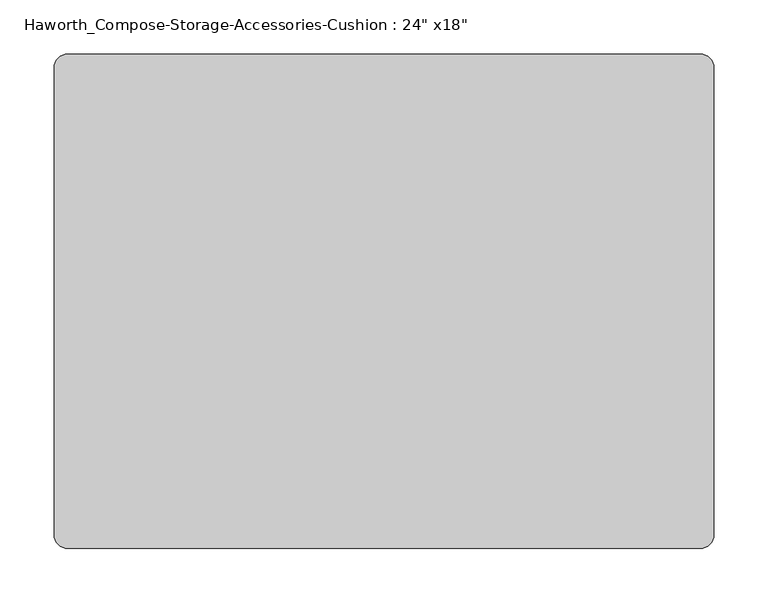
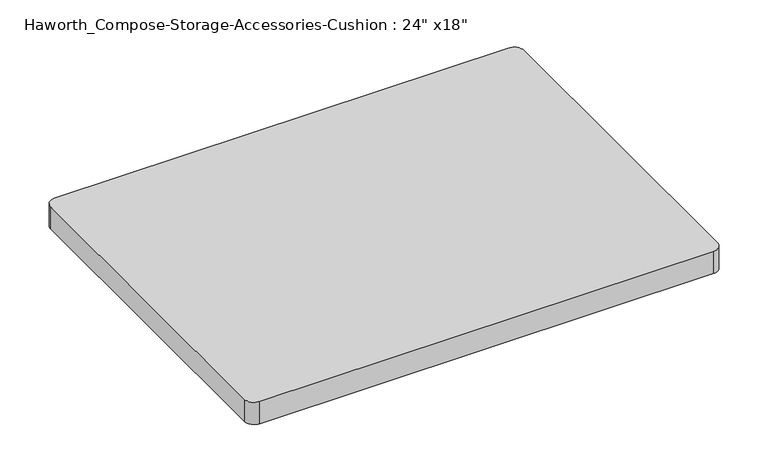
"""IFC4 building model written with IfcOpenShell, lengths in millimetres: furniture geometry."""

from ifc_helpers import new_model, si_unit, point, frame, frame_2d, origin, place, context, project, spatial, polyline, circle_curve, trimmed, segment, composite_curve, outline, extrude, source, transform, mapped, element, save


def furniture_40993e6f(model_context):
    return source(origin(), model_context, "Body", "SweptSolid", [
        extrude(outline(composite_curve([segment(polyline([(292.1, -228.6), (-292.1, -228.6)]), True, "CONTINUOUS"), segment(trimmed(circle_curve(frame_2d((-292.1, -215.9)), 12.7), [point((-292.1, -228.6))], [point((-304.8, -215.9))], False, "CARTESIAN"), True, "CONTINUOUS"), segment(polyline([(-304.8, -215.9), (-304.8, 215.9)]), True, "CONTINUOUS"), segment(trimmed(circle_curve(frame_2d((-292.1, 215.9)), 12.7), [point((-304.8, 215.9))], [point((-292.1, 228.6))], False, "CARTESIAN"), True, "CONTINUOUS"), segment(polyline([(-292.1, 228.6), (292.1, 228.6)]), True, "CONTINUOUS"), segment(trimmed(circle_curve(frame_2d((292.1, 215.9)), 12.7), [point((292.1, 228.6))], [point((304.8, 215.9))], False, "CARTESIAN"), True, "CONTINUOUS"), segment(polyline([(304.8, 215.9), (304.8, -215.9)]), True, "CONTINUOUS"), segment(trimmed(circle_curve(frame_2d((292.1, -215.9)), 12.7), [point((304.8, -215.9))], [point((292.1, -228.6))], False, "CARTESIAN"), True, "CONTINUOUS")], self_intersect=False)), frame((0.0, 0.0, 584.2), z_axis=(0.0, 0.0, 1.0), x_axis=(1.0, 0.0, 0.0)), (0.0, 0.0, 1.0), 30.1625),
    ])


if __name__ == "__main__":
    model = new_model("IFC4")
    model_context = context("Model", 3, world=origin())
    ifc_project = project(units=[si_unit("LENGTHUNIT", "METRE", prefix="MILLI")], contexts=[model_context])
    site = spatial("IfcSite", under=ifc_project)
    building = spatial("IfcBuilding", under=site)
    placement = place(None, origin())
    furniture_shape = furniture_40993e6f(model_context)
    element("IfcFurniture", 1, ObjectType="Haworth_Compose-Storage-Accessories-Cushion : 24\" x18\"", at=placement, inside=building, context=model_context, shape_type="MappedRepresentation", body=[
        mapped(furniture_shape, transform((0.0, 0.0, 0.0), x_axis=(1.0, 0.0, 0.0), y_axis=(0.0, 1.0, 0.0), z_axis=(0.0, 0.0, 1.0))),
    ])
    save(model, "model.ifc")
